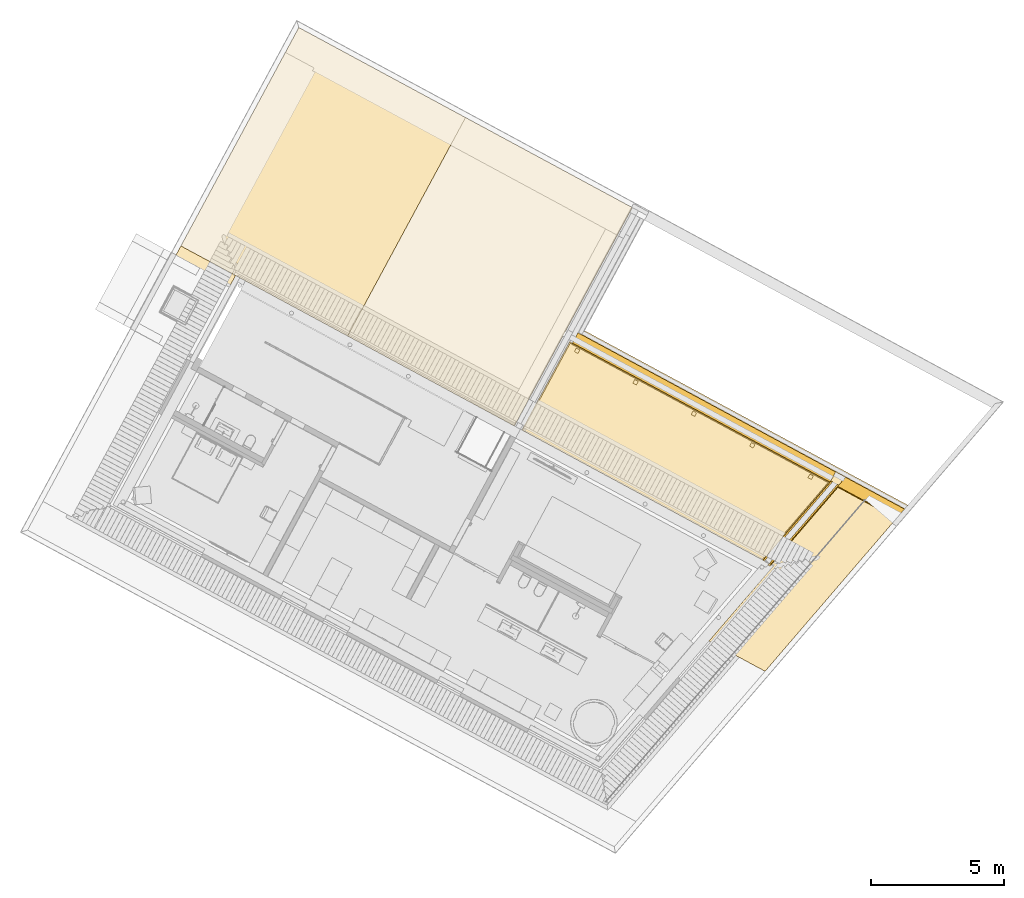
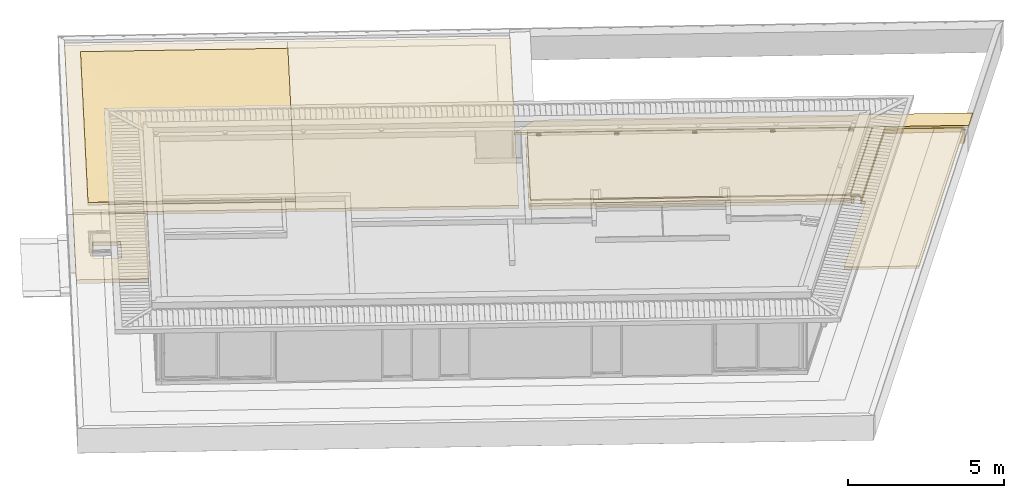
# One storey, part 14 of 48: 15 coverings.
"""IFC2X3 building model written with IfcOpenShell, lengths in metres."""

from ifc_helpers import new_model, entity, si_unit, converted_unit, derived_unit, money_unit, direction, frame, origin_with_axes, place, context, subcontext, project, spatial, faceted_brep, material, material_list, type_object, element, save


model = new_model("IFC2X3")

# Units and contexts
model_context = context("Model", 3, precision=1e-05, world=origin_with_axes(), true_north=direction((0.0, 1.0)))
body_context = subcontext(model_context, "Body", "Model", "MODEL_VIEW")
ifc_project = project(units=[si_unit("LENGTHUNIT", "METRE"), si_unit("AREAUNIT", "SQUARE_METRE"), si_unit("VOLUMEUNIT", "CUBIC_METRE"), converted_unit("PLANEANGLEUNIT", "DEGREE", entity("IfcPlaneAngleMeasure", 0.0174532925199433), si_unit("PLANEANGLEUNIT", "RADIAN"), dimensions=[0, 0, 0, 0, 0, 0, 0]), money_unit("EUR"), converted_unit("TIMEUNIT", "Year", entity("IfcTimeMeasure", 31556926.0), si_unit("TIMEUNIT", "SECOND"), dimensions=[0, 0, 1, 0, 0, 0, 0]), si_unit("MASSUNIT", "GRAM", prefix="KILO"), si_unit("THERMODYNAMICTEMPERATUREUNIT", "DEGREE_CELSIUS"), si_unit("LUMINOUSINTENSITYUNIT", "LUMEN"), si_unit("ENERGYUNIT", "JOULE", prefix="MEGA"), derived_unit("THERMALCONDUCTANCEUNIT", [(si_unit("POWERUNIT", "WATT"), 1), (si_unit("LENGTHUNIT", "METRE"), -1), (si_unit("THERMODYNAMICTEMPERATUREUNIT", "KELVIN"), -1)]), derived_unit("SPECIFICHEATCAPACITYUNIT", [(si_unit("ENERGYUNIT", "JOULE"), 1), (si_unit("MASSUNIT", "GRAM", prefix="KILO"), -1), (si_unit("THERMODYNAMICTEMPERATUREUNIT", "KELVIN"), -1)]), derived_unit("MASSDENSITYUNIT", [(si_unit("MASSUNIT", "GRAM", prefix="KILO"), 1), (si_unit("VOLUMEUNIT", "CUBIC_METRE"), -1)])], contexts=[model_context])

# Site, building, storey
site_placement = place(None, frame((-3.949935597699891, 1.740105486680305, 0.0), z_axis=(0.0, 0.0, 1.0), x_axis=(0.8799804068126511, -0.475009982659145, 0.0)))
site = spatial("IfcSite", under=ifc_project, at=site_placement, Name="Gelände", CompositionType="ELEMENT")
building_placement = place(site_placement, origin_with_axes())
building = spatial("IfcBuilding", under=site, at=building_placement, Name="Gebäude", CompositionType="ELEMENT")
storey_placement = place(building_placement, frame((0.0, 0.0, 4.55), z_axis=(0.0, 0.0, 1.0), x_axis=(1.0, 0.0, 0.0)))
storey = spatial("IfcBuildingStorey", under=building, at=storey_placement, Name="Staffelgeschoss", CompositionType="ELEMENT", Elevation=4.55)

# Coverings
ifc_material_1 = material(Name="_SIWH - Dämmung, hart Mineralwolle")
covering_type_1 = type_object("IfcCoveringType", Name="_SIWH - Dämmung, hart Mineralwolle 60", PredefinedType="NOTDEFINED")
covering_1_placement = place(storey_placement, frame((27.7493589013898, 11.03779043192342, -0.06499999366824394), z_axis=(0.0, 0.0, 1.0), x_axis=(1.0, 0.0, 0.0)))
element("IfcCovering", 1, at=covering_1_placement, inside=storey, type_object=covering_type_1, material=ifc_material_1, Name="Decke017", PredefinedType="NOTDEFINED", context=body_context, shape_type="Brep", body=[
    faceted_brep([(0.3278595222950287, 1.017655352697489e-05, 0.0), (0.0, 0.0, 0.0), (0.0, 0.0, -0.05999999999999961), (0.3278595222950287, 1.017655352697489e-05, -0.05999999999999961), (0.8267267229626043, 4.225255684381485, 0.0), (0.8268324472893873, 3.785232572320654, 0.0), (1.250688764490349, 4.225255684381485, 0.0), (0.8268324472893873, 3.785232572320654, -0.05999999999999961), (1.250688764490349, 4.225255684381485, -0.05999999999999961), (0.8267267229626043, 4.225255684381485, -0.05999999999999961)], [[[0, 1, 2, 3]], [[4, 5, 1, 0, 6]], [[1, 5, 7, 2]], [[8, 3, 2, 7, 9]], [[6, 0, 3, 8]], [[5, 4, 9, 7]], [[4, 6, 8, 9]]]),
])
ifc_material_2 = material(Name="_SIWH - Belag Terrasse SG")
covering_type_2 = type_object("IfcCoveringType", Name="_SIWH - Belag Terrasse SG 40", PredefinedType="NOTDEFINED")
covering_2_placement = place(storey_placement, frame((17.47749037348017, 11.05780061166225, -0.02000000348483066), z_axis=(0.0, 0.0, 1.0), x_axis=(1.0, 0.0, 0.0)))
element("IfcCovering", 2, at=covering_2_placement, inside=storey, type_object=covering_type_2, material=ifc_material_2, Name="Decke052", PredefinedType="NOTDEFINED", context=body_context, shape_type="Brep", body=[
    faceted_brep([(11.0368158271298, 3.715247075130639, -0.04000000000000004), (10.22497345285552, 0.0, -0.04000000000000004), (0.0, 0.0, -0.04000000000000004), (0.0, 3.715247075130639, -0.04000000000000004), (0.2899852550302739, 3.670916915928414, -0.04000000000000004), (0.2899852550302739, 3.520916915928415, -0.04000000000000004), (0.4399852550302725, 3.520916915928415, -0.04000000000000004), (0.4399852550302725, 3.670916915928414, -0.04000000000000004), (10.28398692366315, 3.670913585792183, -0.04000000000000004), (10.28398626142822, 3.520913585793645, -0.04000000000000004), (10.43398626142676, 3.52091292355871, -0.04000000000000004), (10.43398692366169, 3.670912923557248, -0.04000000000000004), (7.785486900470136, 3.670914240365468, -0.04000000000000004), (7.785486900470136, 3.520914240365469, -0.04000000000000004), (7.935486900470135, 3.520914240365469, -0.04000000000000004), (7.935486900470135, 3.670914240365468, -0.04000000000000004), (5.286986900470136, 3.670914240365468, -0.04000000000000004), (5.286986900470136, 3.520914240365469, -0.04000000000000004), (5.436986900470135, 3.520914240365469, -0.04000000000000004), (5.436986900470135, 3.670914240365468, -0.04000000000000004), (2.788486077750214, 3.670915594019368, -0.04000000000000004), (2.788486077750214, 3.520915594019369, -0.04000000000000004), (2.938486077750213, 3.520915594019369, -0.04000000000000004), (2.938486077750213, 3.670915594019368, -0.04000000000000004), (11.0368158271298, 3.715247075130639, 0.0), (10.22497345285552, 0.0, 0.0), (0.0, 0.0, 0.0), (0.0, 3.715247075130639, 0.0), (0.2899852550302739, 3.670916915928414, 0.0), (0.2899852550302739, 3.520916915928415, 0.0), (0.4399852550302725, 3.520916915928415, 0.0), (0.4399852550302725, 3.670916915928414, 0.0), (10.28398692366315, 3.670913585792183, 0.0), (10.28398626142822, 3.520913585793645, 0.0), (10.43398626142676, 3.52091292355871, 0.0), (10.43398692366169, 3.670912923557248, 0.0), (7.785486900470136, 3.670914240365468, 0.0), (7.785486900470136, 3.520914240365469, 0.0), (7.935486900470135, 3.520914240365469, 0.0), (7.935486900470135, 3.670914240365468, 0.0), (5.286986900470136, 3.670914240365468, 0.0), (5.286986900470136, 3.520914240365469, 0.0), (5.436986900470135, 3.520914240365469, 0.0), (5.436986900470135, 3.670914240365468, 0.0), (2.788486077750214, 3.670915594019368, 0.0), (2.788486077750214, 3.520915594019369, 0.0), (2.938486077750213, 3.520915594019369, 0.0), (2.938486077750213, 3.670915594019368, 0.0)], [[[0, 1, 2, 3], [4, 5, 6, 7], [8, 9, 10, 11], [12, 13, 14, 15], [16, 17, 18, 19], [20, 21, 22, 23]], [[24, 25, 1, 0]], [[25, 26, 2, 1]], [[26, 27, 3, 2]], [[27, 24, 0, 3]], [[4, 28, 29, 5]], [[5, 29, 30, 6]], [[6, 30, 31, 7]], [[7, 31, 28, 4]], [[8, 32, 33, 9]], [[9, 33, 34, 10]], [[10, 34, 35, 11]], [[11, 35, 32, 8]], [[12, 36, 37, 13]], [[13, 37, 38, 14]], [[14, 38, 39, 15]], [[15, 39, 36, 12]], [[16, 40, 41, 17]], [[17, 41, 42, 18]], [[18, 42, 43, 19]], [[19, 43, 40, 16]], [[20, 44, 45, 21]], [[21, 45, 46, 22]], [[22, 46, 47, 23]], [[23, 47, 44, 20]], [[24, 27, 26, 25], [30, 29, 28, 31], [34, 33, 32, 35], [38, 37, 36, 39], [42, 41, 40, 43], [46, 45, 44, 47]]]),
])
covering_type_3 = type_object("IfcCoveringType", Name="_SIWH - Dämmung, hart Mineralwolle 100", PredefinedType="NOTDEFINED")
covering_3_placement = place(storey_placement, frame((29.80414439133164, 7.393058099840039, -0.299999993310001), z_axis=(0.0, 0.0, 1.0), x_axis=(1.0, 0.0, 0.0)))
element("IfcCovering", 3, at=covering_3_placement, inside=storey, type_object=covering_type_3, material=ifc_material_1, Name="Decke022", PredefinedType="NOTDEFINED", context=body_context, shape_type="Brep", body=[
    faceted_brep([(0.0, 0.0, 0.0), (0.0, 0.0, -0.1000000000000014), (1.622772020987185, 7.429987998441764, -0.1000000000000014), (1.622772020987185, 7.429987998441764, 0.0), (-2.400299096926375, 0.0, 0.0), (-2.400299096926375, 0.0, -0.1000000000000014), (-1.60425659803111, 3.644742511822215, -0.1000000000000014), (-1.726925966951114, 3.644742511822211, -0.1000000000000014), (-0.9001964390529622, 7.429987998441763, -0.1000000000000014), (-0.9001964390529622, 7.429987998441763, 0.0), (-1.726925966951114, 3.644742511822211, 0.0), (-1.60425659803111, 3.644742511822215, 0.0)], [[[0, 1, 2, 3]], [[4, 5, 1, 0]], [[2, 1, 5, 6, 7, 8]], [[3, 2, 8, 9]], [[4, 0, 3, 9, 10, 11]], [[11, 6, 5, 4]], [[10, 7, 6, 11]], [[9, 8, 7, 10]]]),
])
ifc_material_3 = material(Name="Dämmung, hart Mineralwolle")
covering_type_4 = type_object("IfcCoveringType", Name="Dämmung, hart Mineralwolle", PredefinedType="NOTDEFINED")
covering_4_placement = place(storey_placement, frame((9.972490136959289, 11.0378005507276, -0.3499999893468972), z_axis=(0.0, 0.0, 1.0), x_axis=(1.0, 0.0, 0.0)))
element("IfcCovering", 4, at=covering_4_placement, inside=storey, type_object=covering_type_4, material=ifc_material_3, Name="Freifläche-006", PredefinedType="NOTDEFINED", context=body_context, shape_type="Brep", body=[
    faceted_brep([(7.135000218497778, 8.241240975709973, 0.0909999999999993), (3.56750010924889, 4.673740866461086, 0.01999999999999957), (7.135000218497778, 1.1062407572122, 0.0909999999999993), (0.0, 8.241240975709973, 0.0909999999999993), (0.0, 1.1062407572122, 0.0909999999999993), (7.135000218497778, 9.34748161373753, 0.0), (7.135000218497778, 9.34748161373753, 0.1159999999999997), (7.135000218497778, 0.0, 0.1159999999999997), (7.135000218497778, 0.0, 0.0), (0.0, 9.34748161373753, 0.1159999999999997), (0.0, 0.0, 0.1159999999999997), (0.0, 9.34748161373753, 0.0), (0.0, 0.0, 0.0)], [[[0, 1, 2]], [[3, 1, 0]], [[4, 2, 1]], [[5, 6, 0, 2, 7, 8]], [[4, 1, 3]], [[3, 0, 6, 9]], [[4, 10, 7, 2]], [[11, 9, 6, 5]], [[8, 7, 10, 12]], [[5, 8, 12, 11]], [[12, 10, 4, 3, 9, 11]]]),
])
covering_5_placement = place(storey_placement, frame((2.837489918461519, 11.0378005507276, -0.3499999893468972), z_axis=(0.0, 0.0, 1.0), x_axis=(1.0, 0.0, 0.0)))
element("IfcCovering", 5, at=covering_5_placement, inside=storey, type_object=covering_type_4, material=ifc_material_3, Name="Freifläche-006", PredefinedType="NOTDEFINED", context=body_context, shape_type="Brep", body=[
    faceted_brep([(0.0, 8.241240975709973, 0.0909999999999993), (3.567500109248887, 4.673740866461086, 0.01999999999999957), (7.135000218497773, 8.241240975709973, 0.0909999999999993), (0.0, 1.1062407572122, 0.0909999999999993), (7.135000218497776, 1.1062407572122, 0.0909999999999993), (0.0, 9.34748161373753, 0.1159999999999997), (7.135000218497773, 9.34748161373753, 0.1159999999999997), (0.0, 0.0, 0.0), (0.0, 0.0, 0.1159999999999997), (0.0, 9.34748161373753, 0.0), (7.135000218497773, 9.34748161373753, 0.0), (7.135000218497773, 0.0, 0.1159999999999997), (7.135000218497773, 0.0, 0.0)], [[[0, 1, 2]], [[3, 1, 0]], [[4, 2, 1]], [[5, 0, 2, 6]], [[4, 1, 3]], [[7, 8, 3, 0, 5, 9]], [[10, 6, 2, 4, 11, 12]], [[9, 5, 6, 10]], [[11, 4, 3, 8]], [[12, 11, 8, 7]], [[9, 10, 12, 7]]]),
])
covering_6_placement = place(storey_placement, frame((17.42749037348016, 11.03780067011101, -0.2599999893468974), z_axis=(0.0, 0.0, 1.0), x_axis=(1.0, 0.0, 0.0)))
element("IfcCovering", 6, at=covering_6_placement, inside=storey, type_object=covering_type_4, material=ifc_material_3, Name="Freifläche-005", PredefinedType="NOTDEFINED", context=body_context, shape_type="Brep", body=[
    faceted_brep([(5.385245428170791, 0.0, 0.1159999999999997), (6.985245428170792, 0.0, 0.08399999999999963), (5.385245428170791, 3.785245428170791, 0.1159999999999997), (10.32187076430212, 0.0, 0.0), (10.32187076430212, 0.0, 0.08399999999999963), (3.785245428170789, 0.0, 0.08399999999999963), (0.0, 0.0, 0.08399999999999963), (0.0, 0.0, 0.0), (9.770490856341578, 3.785245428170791, 0.01999999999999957), (11.14870601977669, 3.785245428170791, 0.0), (11.14870601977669, 3.785245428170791, 0.01999999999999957), (11.03948783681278, 3.285245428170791, 0.01999999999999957), (10.27049085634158, 3.285245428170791, 0.01999999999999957), (0.0, 2.785245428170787, 0.01999999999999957), (0.0, 3.785245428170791, 0.01999999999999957), (0.0, 3.785245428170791, 0.0), (1.0, 3.785245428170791, 0.01999999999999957)], [[[0, 1, 2]], [[3, 4, 1, 0, 5, 6, 7]], [[8, 2, 1]], [[0, 2, 5]], [[9, 10, 11, 4, 3]], [[4, 11, 12, 1]], [[6, 5, 13]], [[7, 6, 13, 14, 15]], [[15, 9, 3, 7]], [[15, 14, 16, 2, 8, 10, 9]], [[8, 1, 12]], [[2, 16, 5]], [[10, 8, 12, 11]], [[13, 5, 16]], [[14, 13, 16]]]),
])
ifc_material_4 = material(Name="_SIWH - Gründach")
covering_type_5 = type_object("IfcCoveringType", Name="_SIWH - Gründach", PredefinedType="NOTDEFINED")
covering_7_placement = place(storey_placement, frame((2.837489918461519, 11.0378005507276, -0.3299999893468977), z_axis=(0.0, 0.0, 1.0), x_axis=(1.0, 0.0, 0.0)))
element("IfcCovering", 7, at=covering_7_placement, inside=storey, type_object=covering_type_5, material=ifc_material_4, Name="Freifläche-006", PredefinedType="NOTDEFINED", context=body_context, shape_type="Brep", body=[
    faceted_brep([(7.135000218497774, 0.4350000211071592, 0.1861694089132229), (7.135000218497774, 0.4350000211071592, 0.08616940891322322), (7.135000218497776, 1.1062407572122, 0.07099999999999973), (7.135000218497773, 8.241240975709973, 0.07099999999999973), (7.135000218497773, 8.847481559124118, 0.08470046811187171), (7.135000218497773, 8.847481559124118, 0.1847004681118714), (7.135000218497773, 8.241240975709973, 0.1709999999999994), (7.135000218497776, 1.1062407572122, 0.1709999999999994), (0.4999999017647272, 0.4350000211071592, 0.1861694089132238), (0.4999999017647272, 0.4350000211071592, 0.08616940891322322), (0.4999999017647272, 1.1062407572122, 0.07100000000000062), (3.567500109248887, 4.673740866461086, 0.0), (0.4999999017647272, 8.847481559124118, 0.0847004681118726), (0.4999999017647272, 8.241240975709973, 0.07100000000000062), (0.4999999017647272, 8.847481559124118, 0.1847004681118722), (0.4999999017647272, 8.241240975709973, 0.1709999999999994), (3.567500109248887, 4.673740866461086, 0.09999999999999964), (0.4999999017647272, 1.1062407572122, 0.1709999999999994), (0.4999999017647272, 7.741241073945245, 0.06104905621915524), (0.4999999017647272, 1.606240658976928, 0.06104905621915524), (0.4999999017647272, 1.606240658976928, 0.161049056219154), (0.4999999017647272, 7.741241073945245, 0.161049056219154)], [[[0, 1, 2, 3, 4, 5, 6, 7]], [[1, 0, 8, 9]], [[9, 10, 2, 1]], [[11, 3, 2]], [[12, 4, 3, 13]], [[14, 5, 4, 12]], [[14, 15, 6, 5]], [[6, 16, 7]], [[8, 0, 7, 17]], [[15, 14, 12, 13, 18, 19, 10, 9, 8, 17, 20, 21]], [[10, 19, 11, 2]], [[18, 13, 3, 11]], [[15, 21, 16, 6]], [[20, 17, 7, 16]], [[19, 18, 11]], [[21, 20, 16]]]),
])
ifc_material_5 = material(Name="_SIWH - Holz, Bauholz")
ifc_material_6 = material(Name="_SIWH - Metall, Aluminium")
ifc_material_list_1 = material_list([ifc_material_5, ifc_material_6])
covering_type_6 = type_object("IfcCoveringType", Name="_SIWH - Attikablech1 Achse3+B EG 660 x 115", PredefinedType="NOTDEFINED")
covering_8_placement = place(storey_placement, frame((17.36749037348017, 15.0830461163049, -0.3999999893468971), z_axis=(0.0, 0.0, 1.0), x_axis=(0.999999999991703, -4.073605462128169e-06, 0.0)))
element("IfcCovering", 8, at=covering_8_placement, inside=storey, type_object=covering_type_6, material=ifc_material_list_1, Name="Wand-028", PredefinedType="NOTDEFINED", context=body_context, shape_type="Brep", body=[
    faceted_brep([(14.25193762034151, -0.2600000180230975, 0.3599999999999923), (14.38301305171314, 0.3400000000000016, 0.3599999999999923), (0.3399971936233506, 0.3399999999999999, 0.3599999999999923), (0.3400021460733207, -0.260000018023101, 0.3599999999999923), (14.38301305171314, 0.3400000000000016, 0.3349999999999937), (14.25193762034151, -0.2600000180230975, 0.3349999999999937), (0.3399971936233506, 0.3399999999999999, 0.3349999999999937), (0.3400021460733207, -0.2600000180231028, 0.3349999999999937)], [[[0, 1, 2, 3]], [[4, 1, 0, 5]], [[1, 4, 6, 2]], [[6, 7, 3, 2]], [[5, 0, 3, 7]], [[4, 5, 7, 6]]]),
    faceted_brep([(14.24538384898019, -0.2900000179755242, 0.376899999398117), (14.38956682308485, 0.3699999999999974, 0.399999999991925), (0.3699969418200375, 0.3699999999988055, 0.3999999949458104), (0.3699974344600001, 0.3108222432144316, 0.3979287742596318), (0.3679974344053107, 0.3108222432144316, 0.3979287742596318), (-0.2328196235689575, -0.2900000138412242, 0.3769000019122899), (14.38956682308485, 0.3699999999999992, 0.2849999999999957), (14.2453838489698, -0.2900000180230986, 0.2849999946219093), (14.2497041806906, -0.2702236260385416, 0.3047763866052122), (14.24939523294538, -0.2716378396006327, 0.3061906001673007), (14.24582076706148, -0.2880000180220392, 0.2898284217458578), (14.24582076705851, -0.2880000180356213, 0.3749687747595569), (14.38912990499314, 0.3679999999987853, 0.3979287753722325), (14.38912990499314, 0.3679999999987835, 0.2898284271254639), (14.38550658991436, 0.3514142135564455, 0.3064142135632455), (14.38519764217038, 0.3499999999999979, 0.3050000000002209), (0.369996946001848, 0.3699999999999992, 0.2849999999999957), (0.3699969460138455, 0.3699999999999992, 0.2898284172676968), (0.3699969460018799, 0.3699999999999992, 0.3061906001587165), (0.3699969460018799, 0.3699999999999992, 0.306414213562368), (0.3699969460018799, 0.3699999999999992, 0.334999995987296), (0.3699969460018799, 0.3699999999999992, 0.3599999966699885), (0.3699969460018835, 0.3699999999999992, 0.3979287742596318), (0.3699969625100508, 0.3679999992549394, 0.3979287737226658), (0.367996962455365, 0.3679999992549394, 0.3979287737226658), (-0.2879976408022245, -0.2880000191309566, 0.3749687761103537), (-0.2879976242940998, -0.290000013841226, 0.3749687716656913), (-0.2879976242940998, -0.290000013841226, 0.3599999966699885), (-0.2879976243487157, -0.290000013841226, 0.334999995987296), (-0.2879976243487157, -0.290000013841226, 0.306414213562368), (-0.2879976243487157, -0.290000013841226, 0.3061906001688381), (-0.2879976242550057, -0.290000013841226, 0.289828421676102), (-0.2851692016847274, -0.2900000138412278, 0.2898284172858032), (-0.2899976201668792, -0.2900000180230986, 0.2849999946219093), (11.20214414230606, -0.2900000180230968, 0.2849999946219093), (11.20214414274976, -0.2900000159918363, 0.3349999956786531), (11.52989624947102, -0.2900000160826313, 0.3349999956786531), (11.52989624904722, -0.2900000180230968, 0.2849999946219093), (11.53421549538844, -0.2702236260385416, 0.3047763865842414), (11.53390662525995, -0.2716378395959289, 0.3061906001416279), (11.5303330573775, -0.2880000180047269, 0.289828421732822), (11.53033305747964, -0.2880000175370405, 0.3349999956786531), (11.20258100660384, -0.2880000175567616, 0.3349999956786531), (11.20258100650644, -0.2880000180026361, 0.289828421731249), (-0.2851692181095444, -0.2880000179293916, 0.289828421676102), (-0.287997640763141, -0.2880000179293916, 0.289828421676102), (-0.287997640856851, -0.2880000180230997, 0.3061906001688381), (-0.2879976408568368, -0.2880000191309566, 0.3064142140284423), (-0.2879976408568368, -0.2880000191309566, 0.3349999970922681), (-0.2879976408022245, -0.2880000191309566, 0.3599999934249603), (0.3699969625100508, 0.3679999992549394, 0.3599999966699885), (0.3699969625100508, 0.3679999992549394, 0.334999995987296), (0.3699969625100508, 0.3679999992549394, 0.306414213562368), (0.3699969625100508, 0.3679999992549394, 0.3061906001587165), (0.3699969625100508, 0.3679999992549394, 0.289828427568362), (0.3679969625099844, 0.3679999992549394, 0.289828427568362), (0.3516349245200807, 0.3516378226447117, 0.3061906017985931), (0.3514113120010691, 0.3514142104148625, 0.3064142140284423), (0.3516349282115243, 0.3511905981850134, 0.3061906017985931), (0.3528255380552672, 0.3499999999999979, 0.3050000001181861), (0.3679969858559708, 0.3651715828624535, 0.2898284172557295), (0.3699969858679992, 0.3651715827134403, 0.2898284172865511), (-0.2851692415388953, -0.285171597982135, 0.2898284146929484), (-0.2702213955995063, -0.2702236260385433, 0.3047763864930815), (11.20646394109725, -0.2702236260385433, 0.304776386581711), (11.20615503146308, -0.2716378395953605, 0.3061906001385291), (-0.2716355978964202, -0.2716378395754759, 0.306190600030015), (-0.2702213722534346, -0.2730520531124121, 0.3047763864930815)], [[[0, 1, 2, 3, 4, 5]], [[6, 1, 0, 7, 8, 9, 10, 11, 12, 13, 14, 15]], [[1, 6, 16, 17, 18, 19, 20, 21, 22, 2]], [[2, 22, 23, 3]], [[23, 24, 4, 3]], [[4, 24, 25, 26, 5]], [[7, 0, 5, 26, 27, 28, 29, 30, 31, 32, 33, 34, 35, 36, 37]], [[8, 7, 37, 38]], [[9, 8, 38, 39]], [[10, 9, 39, 40]], [[11, 10, 40, 41, 42, 43, 44, 45, 46, 47, 48, 49, 25]], [[12, 11, 25, 24, 23]], [[13, 12, 23, 50, 51, 52, 53, 54]], [[14, 13, 54, 55, 56, 57]], [[15, 14, 57, 58, 59]], [[6, 15, 59, 60, 61, 16]], [[17, 16, 61, 54]], [[18, 17, 54, 53]], [[19, 18, 53, 52]], [[51, 20, 19, 52]], [[50, 21, 20, 51]], [[22, 21, 50, 23]], [[25, 49, 27, 26]], [[49, 48, 28, 27]], [[48, 47, 29, 28]], [[47, 46, 30, 29]], [[46, 45, 31, 30]], [[45, 44, 32, 31]], [[44, 62, 33, 32]], [[63, 64, 34, 33, 62]], [[35, 34, 64, 65, 43, 42]], [[35, 42, 41, 36]], [[40, 39, 38, 37, 36, 41]], [[44, 43, 65, 66, 67]], [[55, 54, 61, 60]], [[55, 60, 59, 58, 56]], [[56, 58, 57]], [[67, 63, 62, 44]], [[66, 65, 64, 63]], [[67, 66, 63]]]),
])
ifc_material_7 = material(Name="_SIWH - Dämmung, weich Mineralwolle")
ifc_material_list_2 = material_list([ifc_material_7, ifc_material_1])
covering_type_7 = type_object("IfcCoveringType", Name="_SIWH - Attika1 AchseB EG 440 x 865", PredefinedType="NOTDEFINED")
covering_9_placement = place(storey_placement, frame((17.54747601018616, 15.0830461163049, -0.3999999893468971), z_axis=(0.0, 0.0, 1.0), x_axis=(1.0, 0.0, 0.0)))
element("IfcCovering", 9, at=covering_9_placement, inside=storey, type_object=covering_type_7, material=ifc_material_list_2, Name="A-Wand057", PredefinedType="NOTDEFINED", context=body_context, shape_type="Brep", body=[
    faceted_brep([(0.0, 0.1800000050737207, -0.5300000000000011), (0.0, 0.1800000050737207, 0.2749999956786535), (11.02860961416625, 0.1800000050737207, 0.2749999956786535), (11.02860961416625, 0.1800000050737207, -0.5300000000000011), (0.0, 4.99921526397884e-09, -0.5300000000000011), (0.0, 4.99921526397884e-09, 0.2749999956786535), (11.02860961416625, 4.99921526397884e-09, 0.2749999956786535), (11.02860961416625, 4.99921526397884e-09, -0.5300000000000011)], [[[0, 1, 2, 3]], [[4, 5, 1, 0]], [[1, 5, 6, 2]], [[7, 3, 2, 6]], [[4, 0, 3, 7]], [[5, 4, 7, 6]]]),
    faceted_brep([(11.02860961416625, -0.2600000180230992, 0.0), (11.02860961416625, -0.2600000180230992, 0.3349999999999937), (0.0, -0.2600000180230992, 0.3349999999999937), (0.0, -0.2600000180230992, 0.0), (11.02860961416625, -0.2000000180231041, 0.0), (11.02860961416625, -0.2000000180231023, 0.274999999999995), (11.02860961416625, 4.99921526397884e-09, 0.2749999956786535), (11.02860961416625, 0.1799999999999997, 0.274999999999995), (11.02860961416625, 0.1799999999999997, 0.3349999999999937), (0.0, 0.1799999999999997, 0.3349999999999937), (0.0, 0.1799999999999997, 0.274999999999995), (0.0, 4.99921526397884e-09, 0.2749999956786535), (0.0, -0.2000000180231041, 0.274999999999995), (0.0, -0.2000000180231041, 0.0)], [[[0, 1, 2, 3]], [[0, 4, 5, 6, 7, 8, 1]], [[1, 8, 9, 2]], [[3, 2, 9, 10, 11, 12, 13]], [[4, 0, 3, 13]], [[5, 4, 13, 12]], [[6, 5, 12, 11]], [[7, 6, 11, 10]], [[8, 7, 10, 9]]]),
])
covering_10_placement = place(storey_placement, frame((28.90394795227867, 15.0830461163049, -0.3999999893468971), z_axis=(0.0, 0.0, 1.0), x_axis=(1.0, 0.0, 0.0)))
element("IfcCovering", 10, at=covering_10_placement, inside=storey, type_object=covering_type_7, material=ifc_material_list_2, Name="A-Wand059", PredefinedType="NOTDEFINED", context=body_context, shape_type="Brep", body=[
    faceted_brep([(2.579754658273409, 4.99921526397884e-09, 0.2749999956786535), (2.619068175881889, 0.1800000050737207, 0.2749999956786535), (0.0, 0.1800000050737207, 0.2749999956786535), (0.0, 4.99921526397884e-09, 0.2749999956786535), (2.619068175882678, 0.1800000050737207, -0.5300000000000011), (2.579754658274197, 4.99921526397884e-09, -0.5300000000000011), (0.0, 0.1800000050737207, -0.5300000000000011), (0.0, 4.99921526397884e-09, -0.5300000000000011)], [[[0, 1, 2, 3]], [[4, 1, 0, 5]], [[1, 4, 6, 2]], [[6, 7, 3, 2]], [[5, 0, 3, 7]], [[4, 5, 7, 6]]]),
    faceted_brep([(2.522968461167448, -0.2600000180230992, 0.3349999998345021), (2.619068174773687, 0.1799999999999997, 0.3349999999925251), (0.0960997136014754, 0.1799999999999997, 0.3349999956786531), (0.0, -0.2600000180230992, 0.3349999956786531), (2.619068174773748, 0.1799999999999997, 0.2749999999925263), (2.522968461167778, -0.2600000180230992, 0.0), (2.536072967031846, -0.2000000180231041, 0.0), (2.536072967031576, -0.2000000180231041, 0.2749999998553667), (2.579754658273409, 4.99921526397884e-09, 0.2749999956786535), (0.0960997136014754, 0.1799999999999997, 0.2749999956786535), (0.0, -0.2600000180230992, 0.2749999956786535), (0.05678619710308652, 4.99921526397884e-09, 0.2749999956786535), (0.01310450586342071, -0.2000000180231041, 0.2749999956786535), (0.0, -0.2600000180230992, 0.0), (0.0, -0.2000000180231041, 0.0), (0.0, -0.2000000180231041, 0.2749999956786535)], [[[0, 1, 2, 3]], [[4, 1, 0, 5, 6, 7, 8]], [[1, 4, 9, 2]], [[10, 3, 2, 9, 11, 12]], [[5, 0, 3, 10, 13]], [[6, 5, 13, 14]], [[7, 6, 14, 15, 12]], [[8, 7, 12, 11]], [[4, 8, 11, 9]], [[10, 12, 15]], [[13, 10, 15, 14]]]),
])
covering_type_8 = type_object("IfcCoveringType", Name="_SIWH - Dämmung, hart Mineralwolle 275", PredefinedType="NOTDEFINED")
covering_11_placement = place(storey_placement, frame((28.8554786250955, 14.88304610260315, -0.1249999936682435), z_axis=(0.0, 0.0, 1.0), x_axis=(1.0, 0.0, 0.0)))
element("IfcCovering", 11, at=covering_11_placement, inside=storey, type_object=covering_type_8, material=ifc_material_1, Name="Decke018", PredefinedType="NOTDEFINED", context=body_context, shape_type="Brep", body=[
    faceted_brep([(0.0, 0.0, 0.0), (0.0, 0.0, -0.2749999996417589), (-0.8398340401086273, -3.845245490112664, -0.2749999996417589), (-0.8398340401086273, -3.845245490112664, 0.0), (0.04846932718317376, 0.0, 0.0), (0.04846932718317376, 0.0, -0.2749999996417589), (0.04846932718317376, -0.06000000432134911, -0.2749999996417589), (-0.7782602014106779, -3.845245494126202, -0.2749999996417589), (-0.7782602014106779, -3.845245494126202, 0.0), (0.04846932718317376, -0.06000000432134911, 0.0)], [[[0, 1, 2, 3]], [[4, 5, 1, 0]], [[2, 1, 5, 6, 7]], [[3, 2, 7, 8]], [[4, 0, 3, 8, 9]], [[9, 6, 5, 4]], [[8, 7, 6, 9]]]),
])
covering_12_placement = place(storey_placement, frame((28.58930257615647, 14.88304610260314, -0.1249999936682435), z_axis=(0.0, 0.0, 1.0), x_axis=(1.0, 0.0, 0.0)))
element("IfcCovering", 12, at=covering_12_placement, inside=storey, type_object=covering_type_8, material=ifc_material_1, Name="Decke019", PredefinedType="NOTDEFINED", context=body_context, shape_type="Brep", body=[
    faceted_brep([(0.0, 0.0, 0.0), (0.0, 0.0, -0.2749999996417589), (-0.8399436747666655, -3.845255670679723, -0.2749999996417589), (-0.8399436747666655, -3.845255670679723, 0.0), (0.06146139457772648, 0.0, 0.0), (0.06146139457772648, 0.0, -0.2749999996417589), (-0.7783726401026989, -3.845245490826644, -0.2749999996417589), (-0.7783726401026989, -3.845245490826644, 0.0)], [[[0, 1, 2, 3]], [[4, 5, 1, 0]], [[2, 1, 5, 6]], [[3, 2, 6, 7]], [[4, 0, 3, 7]], [[7, 6, 5, 4]]]),
])
covering_type_9 = type_object("IfcCoveringType", Name="_SIWH - Dämmung, hart Mineralwolle 140", PredefinedType="NOTDEFINED")
covering_13_placement = place(storey_placement, frame((17.42749034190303, 14.82304602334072, -0.2599999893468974), z_axis=(0.0, 0.0, 1.0), x_axis=(1.0, 0.0, 0.0)))
element("IfcCovering", 13, at=covering_13_placement, inside=storey, type_object=covering_type_9, material=ifc_material_1, Name="Decke014", PredefinedType="NOTDEFINED", context=body_context, shape_type="Brep", body=[
    faceted_brep([(0.0, 0.0, 0.0), (0.0, 0.0, -0.1399999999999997), (0.0, -3.785245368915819, -0.1399999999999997), (0.0, -3.785245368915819, 0.0), (11.14870605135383, 0.0, 0.0), (11.14870605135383, 0.0, -0.1399999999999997), (10.3218707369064, -3.785245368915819, -0.1399999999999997), (10.3218707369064, -3.785245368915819, 0.0)], [[[0, 1, 2, 3]], [[4, 5, 1, 0]], [[2, 1, 5, 6]], [[3, 2, 6, 7]], [[4, 0, 3, 7]], [[7, 6, 5, 4]]]),
])
ifc_material_list_3 = material_list([ifc_material_6, ifc_material_5])
covering_type_10 = type_object("IfcCoveringType", Name="_SIWH - Attikablech3 Achse3+4' EG 380 x 92", PredefinedType="NOTDEFINED")
covering_14_placement = place(storey_placement, frame((28.0020816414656, 10.97590602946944, -0.3999999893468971), z_axis=(0.0, 0.0, 1.0), x_axis=(0.2134295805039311, 0.9769584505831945, 0.0)))
element("IfcCovering", 14, at=covering_14_placement, inside=storey, type_object=covering_type_10, material=ifc_material_list_3, Name="Wand-028", PredefinedType="NOTDEFINED", context=body_context, shape_type="Brep", body=[
    faceted_brep([(0.0633624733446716, -4.030342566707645e-05, 0.3768999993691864), (0.0, -4.362255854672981e-05, 0.3768999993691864), (0.0, -0.0899999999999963, 0.3768999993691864), (3.926824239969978, -0.09000000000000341, 0.3768999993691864), (3.843812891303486, 0.2900000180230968, 0.3768999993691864), (-1.870300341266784e-06, 0.2899996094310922, 0.3768999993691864), (0.06336241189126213, -4.030342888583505e-05, 0.3748615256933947), (0.0, -4.362255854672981e-05, 0.3748615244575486), (0.0, -0.08800000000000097, 0.3748287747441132), (0.0, -0.08800000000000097, 0.2898284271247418), (0.0, -0.07141421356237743, 0.306414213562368), (0.0, -0.07000000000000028, 0.3049999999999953), (0.0, -0.08999999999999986, 0.2849999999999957), (3.926824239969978, -0.09000000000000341, 0.2849999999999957), (3.843812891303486, 0.2900000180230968, 0.2849999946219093), (3.922455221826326, -0.07000000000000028, 0.3049999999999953), (3.92276415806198, -0.07141421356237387, 0.306414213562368), (3.926387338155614, -0.08800000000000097, 0.2898284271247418), (3.926387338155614, -0.08800000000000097, 0.3748287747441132), (3.84424979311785, 0.2880000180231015, 0.3749687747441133), (3.84424979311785, 0.2880000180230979, 0.2898284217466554), (3.847824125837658, 0.2716378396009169, 0.3061906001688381), (3.848133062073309, 0.2702236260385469, 0.3047763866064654), (-1.870300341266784e-06, 0.2899996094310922, 0.2849999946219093), (0.004318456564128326, 0.2702236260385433, 0.3047763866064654), (0.004009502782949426, 0.2716378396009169, 0.3061906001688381), (0.0004349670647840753, 0.2880000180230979, 0.2898284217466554), (0.0004349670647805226, 0.2880000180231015, 0.3749687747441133)], [[[0, 1, 2, 3, 4, 5]], [[1, 0, 6, 7]], [[1, 7, 8, 9, 10, 11, 12, 2]], [[12, 13, 3, 2]], [[14, 4, 3, 13, 15, 16, 17, 18, 19, 20, 21, 22]], [[23, 5, 4, 14]], [[0, 5, 23, 24, 25, 26, 27, 6]], [[6, 27, 19, 18, 8, 7]], [[8, 18, 17, 9]], [[9, 17, 16, 10]], [[10, 16, 15, 11]], [[11, 15, 13, 12]], [[27, 26, 20, 19]], [[26, 25, 21, 20]], [[25, 24, 22, 21]], [[24, 23, 14, 22]]]),
    faceted_brep([(0.06336196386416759, -4.030345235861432e-05, 0.3599999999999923), (0.0, -4.362255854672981e-05, 0.3599999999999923), (0.0, -0.05999999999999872, 0.3599999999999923), (3.920270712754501, -0.06000000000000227, 0.3599999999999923), (3.850366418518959, 0.2600000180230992, 0.3599999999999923), (0.00655193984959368, 0.2600000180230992, 0.3599999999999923), (0.06336121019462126, -4.030349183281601e-05, 0.3349999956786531), (0.0, -4.362255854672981e-05, 0.3349999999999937), (0.0, -0.05999999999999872, 0.3349999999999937), (3.920270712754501, -0.06000000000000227, 0.3349999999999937), (3.850366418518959, 0.2600000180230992, 0.3349999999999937), (0.006553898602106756, 0.2600000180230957, 0.3349999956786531)], [[[0, 1, 2, 3, 4, 5]], [[1, 0, 6, 7]], [[1, 7, 8, 2]], [[8, 9, 3, 2]], [[10, 4, 3, 9]], [[11, 5, 4, 10]], [[0, 5, 11, 6]], [[6, 11, 10, 9, 8, 7]]]),
])
covering_type_11 = type_object("IfcCoveringType", Name="_SIWH - Dämmung, hart Mineralwolle 150", PredefinedType="NOTDEFINED")
covering_15_placement = place(storey_placement, frame((2.837482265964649, 11.03780061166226, -0.299999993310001), z_axis=(0.0, 0.0, 1.0), x_axis=(1.0, 0.0, 0.0)))
element("IfcCovering", 15, at=covering_15_placement, inside=storey, type_object=covering_type_11, material=ifc_material_1, Name="Decke023", PredefinedType="NOTDEFINED", context=body_context, shape_type="Brep", body=[
    faceted_brep([(2.339999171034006, -3.644741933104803, -0.1500000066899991), (0.0, -3.644742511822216, -0.1500000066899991), (0.0, 0.0, -0.1500000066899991), (2.339999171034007, 0.0, -0.1500000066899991), (0.5850076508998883, -1.562383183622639, -0.1500000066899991), (0.5850076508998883, -2.462383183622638, -0.1500000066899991), (1.485007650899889, -2.462383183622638, -0.1500000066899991), (1.485007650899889, -1.562383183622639, -0.1500000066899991), (2.339999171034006, -3.644741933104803, 0.0), (0.0, -3.644742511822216, 0.0), (0.0, 0.0, 0.0), (2.339999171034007, 0.0, 0.0), (0.5850076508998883, -1.562383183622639, 0.0), (0.5850076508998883, -2.462383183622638, 0.0), (1.485007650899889, -2.462383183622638, 0.0), (1.485007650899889, -1.562383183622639, 0.0)], [[[0, 1, 2, 3], [4, 5, 6, 7]], [[8, 9, 1, 0]], [[2, 1, 9, 10]], [[3, 2, 10, 11]], [[11, 8, 0, 3]], [[4, 12, 13, 5]], [[5, 13, 14, 6]], [[6, 14, 15, 7]], [[7, 15, 12, 4]], [[11, 10, 9, 8], [14, 13, 12, 15]]]),
])

save(model, "model.ifc")
